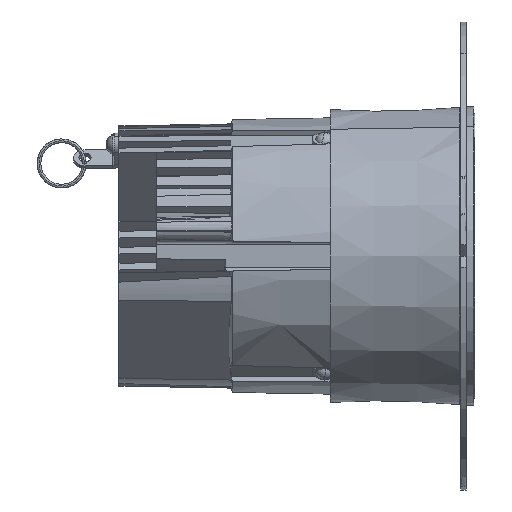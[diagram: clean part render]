
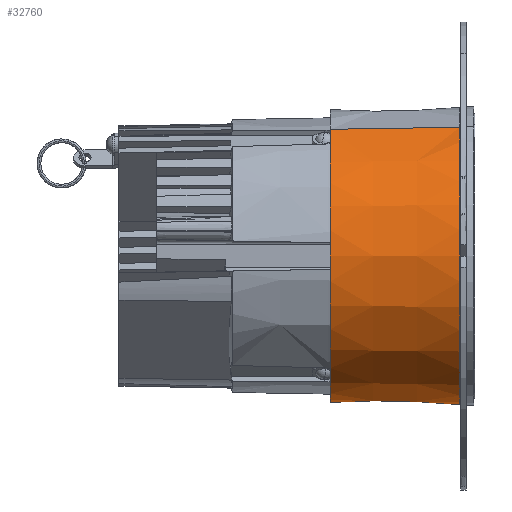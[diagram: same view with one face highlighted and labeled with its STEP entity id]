
A CAD part, left-side view. The second image highlights one B-rep face of the part: STEP entity #32760.
In plain terms, the highlighted conical face has half-angle 1 degrees and reference radius 38.776 mm.
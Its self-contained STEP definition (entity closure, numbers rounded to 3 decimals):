
#738 = VERTEX_POINT ( 'NONE', #23940 ) ;
#2202 = AXIS2_PLACEMENT_3D ( 'NONE', #17831, #31204, #30769 ) ;
#3456 = ORIENTED_EDGE ( 'NONE', *, *, #4006, .F. ) ;
#4006 = EDGE_CURVE ( 'NONE', #37060, #738, #42574, .T. ) ;
#4611 = EDGE_CURVE ( 'NONE', #738, #29269, #15081, .T. ) ;
#5223 = CARTESIAN_POINT ( 'NONE',  ( 0., 38., 38.776 ) ) ;
#10377 = AXIS2_PLACEMENT_3D ( 'NONE', #34312, #25115, #12376 ) ;
#10645 = LINE ( 'NONE', #11502, #25600 ) ;
#11288 = CONICAL_SURFACE ( 'NONE', #2202, 38.776, 0.017 ) ;
#11502 = CARTESIAN_POINT ( 'NONE',  ( 0., 38., -38.776 ) ) ;
#12376 = DIRECTION ( 'NONE',  ( 0., 0., 1. ) ) ;
#13310 = VERTEX_POINT ( 'NONE', #29759 ) ;
#14369 = CARTESIAN_POINT ( 'NONE',  ( 0., 38., -38.776 ) ) ;
#14653 = CARTESIAN_POINT ( 'NONE',  ( 0., 3.697, 0. ) ) ;
#15081 = LINE ( 'NONE', #5223, #41219 ) ;
#15174 = EDGE_CURVE ( 'NONE', #13310, #29269, #43085, .T. ) ;
#17831 = CARTESIAN_POINT ( 'NONE',  ( 0., 38., 0. ) ) ;
#18171 = DIRECTION ( 'NONE',  ( 0., 0., -1. ) ) ;
#22790 = AXIS2_PLACEMENT_3D ( 'NONE', #14653, #41183, #18171 ) ;
#23940 = CARTESIAN_POINT ( 'NONE',  ( 0., 38., 38.776 ) ) ;
#25115 = DIRECTION ( 'NONE',  ( 0., 1., 0. ) ) ;
#25600 = VECTOR ( 'NONE', #38018, 1000. ) ;
#25836 = ORIENTED_EDGE ( 'NONE', *, *, #15174, .T. ) ;
#29269 = VERTEX_POINT ( 'NONE', #34192 ) ;
#29759 = CARTESIAN_POINT ( 'NONE',  ( 0., 3.697, -39.374 ) ) ;
#30769 = DIRECTION ( 'NONE',  ( 0., 0., -1. ) ) ;
#31204 = DIRECTION ( 'NONE',  ( 0., -1., 0. ) ) ;
#32760 = ADVANCED_FACE ( 'NONE', ( #37336 ), #11288, .T. ) ;
#34192 = CARTESIAN_POINT ( 'NONE',  ( 0., 3.697, 39.374 ) ) ;
#34312 = CARTESIAN_POINT ( 'NONE',  ( 0., 38., 0. ) ) ;
#35234 = DIRECTION ( 'NONE',  ( 0., -1., 0.017 ) ) ;
#35918 = EDGE_LOOP ( 'NONE', ( #40329, #3456, #42837, #25836 ) ) ;
#37060 = VERTEX_POINT ( 'NONE', #14369 ) ;
#37336 = FACE_OUTER_BOUND ( 'NONE', #35918, .T. ) ;
#38018 = DIRECTION ( 'NONE',  ( 0., -1., -0.017 ) ) ;
#40329 = ORIENTED_EDGE ( 'NONE', *, *, #4611, .F. ) ;
#41183 = DIRECTION ( 'NONE',  ( 0., 1., 0. ) ) ;
#41219 = VECTOR ( 'NONE', #35234, 1000. ) ;
#42574 = CIRCLE ( 'NONE', #10377, 38.776 ) ;
#42837 = ORIENTED_EDGE ( 'NONE', *, *, #43096, .T. ) ;
#43085 = CIRCLE ( 'NONE', #22790, 39.374 ) ;
#43096 = EDGE_CURVE ( 'NONE', #37060, #13310, #10645, .T. ) ;
